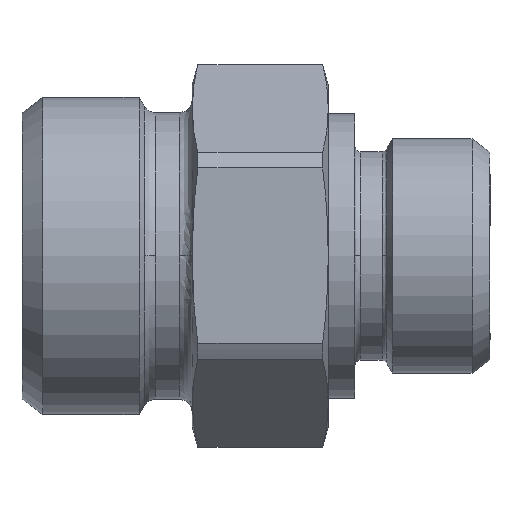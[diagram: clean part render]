
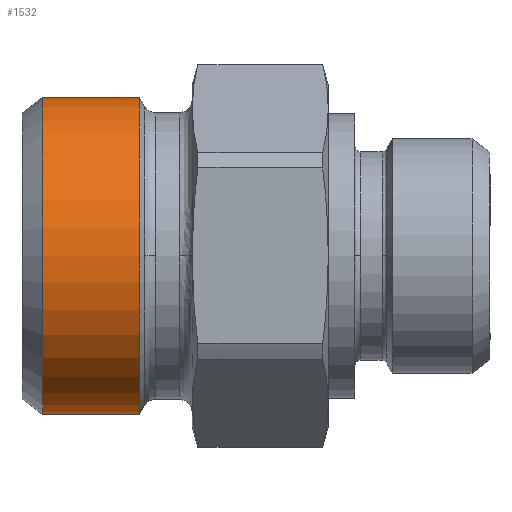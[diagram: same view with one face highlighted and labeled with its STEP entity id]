
A CAD part, top view. The second image highlights one B-rep face of the part: STEP entity #1532.
In plain terms, the highlighted cylindrical face has radius 14.91 mm (diameter 29.82 mm), a partial arc.
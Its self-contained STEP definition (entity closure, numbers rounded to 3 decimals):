
#766=CARTESIAN_POINT('',(0.,-14.91,20.463));
#767=VERTEX_POINT('',#766);
#768=CARTESIAN_POINT('',(0.,-14.91,11.393));
#769=VERTEX_POINT('',#768);
#770=CARTESIAN_POINT('',(0.,-14.91,20.463));
#771=DIRECTION('',(0.0,0.0,-1.0));
#772=VECTOR('',#771,9.07);
#773=LINE('',#770,#772);
#774=EDGE_CURVE('',#767,#769,#773,.T.);
#776=CARTESIAN_POINT('',(0.,14.91,20.463));
#777=VERTEX_POINT('',#776);
#785=CARTESIAN_POINT('',(0.,14.91,11.393));
#786=VERTEX_POINT('',#785);
#787=CARTESIAN_POINT('',(0.,14.91,11.393));
#788=DIRECTION('',(0.0,0.0,1.0));
#789=VECTOR('',#788,9.07);
#790=LINE('',#787,#789);
#791=EDGE_CURVE('',#786,#777,#790,.T.);
#1408=CARTESIAN_POINT('',(0.,0.,11.393));
#1409=DIRECTION('',(0.0,0.0,-1.0));
#1410=DIRECTION('',(0.0,-1.0,0.0));
#1411=AXIS2_PLACEMENT_3D('',#1408,#1409,#1410);
#1412=CIRCLE('',#1411,14.91);
#1413=EDGE_CURVE('',#786,#769,#1412,.T.);
#1509=CARTESIAN_POINT('',(0.,0.,20.463));
#1510=DIRECTION('',(0.0,0.0,-1.0));
#1511=DIRECTION('',(0.0,-1.0,0.0));
#1512=AXIS2_PLACEMENT_3D('',#1509,#1510,#1511);
#1513=CIRCLE('',#1512,14.91);
#1514=EDGE_CURVE('',#777,#767,#1513,.T.);
#1521=CARTESIAN_POINT('',(0.,0.,15.928));
#1522=DIRECTION('',(0.,0.,-1.0));
#1523=DIRECTION('',(0.0,-1.0,0.0));
#1524=AXIS2_PLACEMENT_3D('',#1521,#1522,#1523);
#1525=CYLINDRICAL_SURFACE('',#1524,14.91);
#1526=ORIENTED_EDGE('',*,*,#774,.T.);
#1527=ORIENTED_EDGE('',*,*,#1413,.F.);
#1528=ORIENTED_EDGE('',*,*,#791,.T.);
#1529=ORIENTED_EDGE('',*,*,#1514,.T.);
#1530=EDGE_LOOP('',(#1526,#1527,#1528,#1529));
#1531=FACE_OUTER_BOUND('',#1530,.T.);
#1532=ADVANCED_FACE('',(#1531),#1525,.T.);
